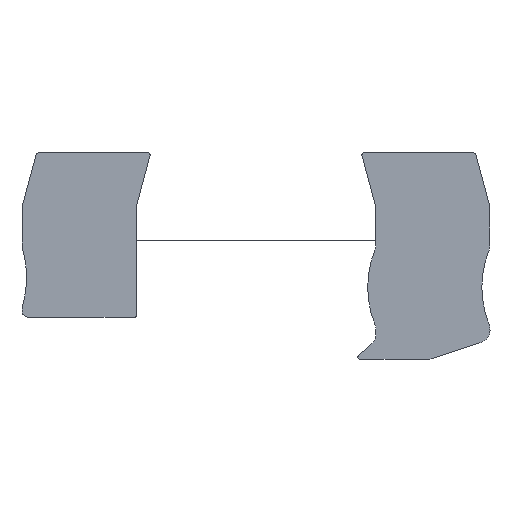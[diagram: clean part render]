
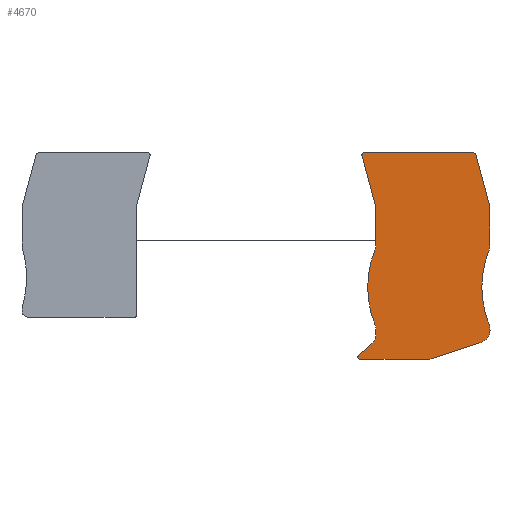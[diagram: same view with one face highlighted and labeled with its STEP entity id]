
A CAD part, top view. The second image highlights one B-rep face of the part: STEP entity #4670.
In plain terms, the highlighted planar face has unit normal (0, 0, 1).
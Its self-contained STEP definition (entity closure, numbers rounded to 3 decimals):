
#2380=CARTESIAN_POINT('',(21.105,12.451,
3.7));
#2390=DIRECTION('',(0.,0.,1.));
#2400=DIRECTION('',(1.,0.,0.));
#2410=AXIS2_PLACEMENT_3D('',#2380,#2390,#2400);
#2420=PLANE('',#2410);
#2430=CARTESIAN_POINT('',(27.45,13.169,
3.7));
#2440=DIRECTION('',(0.,0.,1.));
#2450=DIRECTION('',(1.,0.,0.));
#2460=AXIS2_PLACEMENT_3D('',#2430,#2440,#2450);
#2470=CIRCLE('',#2460,0.5);
#2480=CARTESIAN_POINT('',(27.95,13.169,
3.7));
#2490=VERTEX_POINT('',#2480);
#2500=CARTESIAN_POINT('',(27.933,13.298,
3.7));
#2510=VERTEX_POINT('',#2500);
#2520=EDGE_CURVE('',#2490,#2510,#2470,.T.);
#2530=ORIENTED_EDGE('',*,*,#2520,.T.);
#2540=CARTESIAN_POINT('',(27.95,6.334,3.7));
#2550=DIRECTION('',(0.,-1.,0.));
#2560=VECTOR('',#2550,1.);
#2570=LINE('',#2540,#2560);
#2580=CARTESIAN_POINT('',(27.95,7.404,
3.7));
#2590=VERTEX_POINT('',#2580);
#2600=EDGE_CURVE('',#2490,#2590,#2570,.T.);
#2610=ORIENTED_EDGE('',*,*,#2600,.F.);
#2620=CARTESIAN_POINT('',(25.95,7.404,
3.7));
#2630=DIRECTION('',(0.,0.,1.));
#2640=DIRECTION('',(1.,0.,0.));
#2650=AXIS2_PLACEMENT_3D('',#2620,#2630,#2640);
#2660=CIRCLE('',#2650,2.);
#2670=CARTESIAN_POINT('',(27.803,6.65,
3.7));
#2680=VERTEX_POINT('',#2670);
#2690=EDGE_CURVE('',#2680,#2590,#2660,.T.);
#2700=ORIENTED_EDGE('',*,*,#2690,.T.);
#2710=CARTESIAN_POINT('',(41.698,1.,
3.7));
#2720=DIRECTION('',(0.,0.,1.));
#2730=DIRECTION('',(1.,0.,0.));
#2740=AXIS2_PLACEMENT_3D('',#2710,#2720,#2730);
#2750=CIRCLE('',#2740,15.);
#2760=CARTESIAN_POINT('',(26.698,1.,
3.7));
#2770=VERTEX_POINT('',#2760);
#2780=EDGE_CURVE('',#2680,#2770,#2750,.T.);
#2790=ORIENTED_EDGE('',*,*,#2780,.F.);
#2800=CARTESIAN_POINT('',(27.803,-4.65,
3.7));
#2810=VERTEX_POINT('',#2800);
#2820=EDGE_CURVE('',#2770,#2810,#2750,.T.);
#2830=ORIENTED_EDGE('',*,*,#2820,.F.);
#2840=CARTESIAN_POINT('',(25.95,-5.404,
3.7));
#2850=DIRECTION('',(0.,0.,1.));
#2860=DIRECTION('',(1.,0.,0.));
#2870=AXIS2_PLACEMENT_3D('',#2840,#2850,#2860);
#2880=CIRCLE('',#2870,2.);
#2890=CARTESIAN_POINT('',(27.95,-5.404,
3.7));
#2900=VERTEX_POINT('',#2890);
#2910=EDGE_CURVE('',#2900,#2810,#2880,.T.);
#2920=ORIENTED_EDGE('',*,*,#2910,.T.);
#2930=CARTESIAN_POINT('',(27.95,6.334,3.7));
#2940=DIRECTION('',(0.,-1.,0.));
#2950=VECTOR('',#2940,1.);
#2960=LINE('',#2930,#2950);
#2970=CARTESIAN_POINT('',(27.95,-5.554,
3.7));
#2980=VERTEX_POINT('',#2970);
#2990=EDGE_CURVE('',#2900,#2980,#2960,.T.);
#3000=ORIENTED_EDGE('',*,*,#2990,.F.);
#3010=CARTESIAN_POINT('',(25.95,-5.554,
3.7));
#3020=DIRECTION('',(0.,0.,-1.));
#3030=DIRECTION('',(-1.,0.,0.));
#3040=AXIS2_PLACEMENT_3D('',#3010,#3020,#3030);
#3050=CIRCLE('',#3040,2.);
#3060=CARTESIAN_POINT('',(26.576,-7.454,
3.7));
#3070=VERTEX_POINT('',#3060);
#3080=EDGE_CURVE('',#2980,#3070,#3050,.T.);
#3090=ORIENTED_EDGE('',*,*,#3080,.F.);
#3100=CARTESIAN_POINT('',(10.837,-12.638,3.7))
;
#3110=DIRECTION('',(-0.95,-0.313,0.));
#3120=VECTOR('',#3110,1.);
#3130=LINE('',#3100,#3120);
#3140=CARTESIAN_POINT('',(19.15,-9.9,
3.7));
#3150=VERTEX_POINT('',#3140);
#3160=EDGE_CURVE('',#3070,#3150,#3130,.T.);
#3170=ORIENTED_EDGE('',*,*,#3160,.F.);
#3180=CARTESIAN_POINT('',(18.524,-8.,
3.7));
#3190=DIRECTION('',(0.,0.,1.));
#3200=DIRECTION('',(1.,0.,0.));
#3210=AXIS2_PLACEMENT_3D('',#3180,#3190,#3200);
#3220=CIRCLE('',#3210,2.);
#3230=CARTESIAN_POINT('',(18.524,-10.,
3.7));
#3240=VERTEX_POINT('',#3230);
#3250=EDGE_CURVE('',#3240,#3150,#3220,.T.);
#3260=ORIENTED_EDGE('',*,*,#3250,.T.);
#3270=CARTESIAN_POINT('',(10.837,-10.,3.7))
;
#3280=DIRECTION('',(-1.,0.,0.));
#3290=VECTOR('',#3280,1.);
#3300=LINE('',#3270,#3290);
#3310=CARTESIAN_POINT('',(8.046,-10.,
3.7));
#3320=VERTEX_POINT('',#3310);
#3330=EDGE_CURVE('',#3240,#3320,#3300,.T.);
#3340=ORIENTED_EDGE('',*,*,#3330,.F.);
#3350=CARTESIAN_POINT('',(8.046,-9.7,
3.7));
#3360=DIRECTION('',(0.,0.,1.));
#3370=DIRECTION('',(1.,0.,0.));
#3380=AXIS2_PLACEMENT_3D('',#3350,#3360,#3370);
#3390=CIRCLE('',#3380,0.3);
#3400=CARTESIAN_POINT('',(7.746,-9.7,
3.7));
#3410=VERTEX_POINT('',#3400);
#3420=EDGE_CURVE('',#3410,#3320,#3390,.T.);
#3430=ORIENTED_EDGE('',*,*,#3420,.T.);
#3440=CARTESIAN_POINT('',(7.841,-9.481,
3.7));
#3450=VERTEX_POINT('',#3440);
#3460=EDGE_CURVE('',#3450,#3410,#3390,.T.);
#3470=ORIENTED_EDGE('',*,*,#3460,.T.);
#3480=CARTESIAN_POINT('',(10.837,-6.686,3.7))
;
#3490=DIRECTION('',(0.731,0.682,0.));
#3500=VECTOR('',#3490,1.);
#3510=LINE('',#3480,#3500);
#3520=CARTESIAN_POINT('',(9.864,-7.593,
3.7));
#3530=VERTEX_POINT('',#3520);
#3540=EDGE_CURVE('',#3450,#3530,#3510,.T.);
#3550=ORIENTED_EDGE('',*,*,#3540,.F.);
#3560=CARTESIAN_POINT('',(8.5,-6.131,
3.7));
#3570=DIRECTION('',(0.,0.,1.));
#3580=DIRECTION('',(1.,0.,0.));
#3590=AXIS2_PLACEMENT_3D('',#3560,#3570,#3580);
#3600=CIRCLE('',#3590,2.);
#3610=CARTESIAN_POINT('',(10.5,-6.131,
3.7));
#3620=VERTEX_POINT('',#3610);
#3630=EDGE_CURVE('',#3530,#3620,#3600,.T.);
#3640=ORIENTED_EDGE('',*,*,#3630,.F.);
#3650=CARTESIAN_POINT('',(10.5,6.334,3.7));
#3660=DIRECTION('',(0.,1.,0.));
#3670=VECTOR('',#3660,1.);
#3680=LINE('',#3650,#3670);
#3690=CARTESIAN_POINT('',(10.5,-5.404,
3.7));
#3700=VERTEX_POINT('',#3690);
#3710=EDGE_CURVE('',#3620,#3700,#3680,.T.);
#3720=ORIENTED_EDGE('',*,*,#3710,.F.);
#3730=CARTESIAN_POINT('',(8.5,-5.404,
3.7));
#3740=DIRECTION('',(0.,0.,1.));
#3750=DIRECTION('',(1.,0.,0.));
#3760=AXIS2_PLACEMENT_3D('',#3730,#3740,#3750);
#3770=CIRCLE('',#3760,2.);
#3780=CARTESIAN_POINT('',(10.353,-4.65,
3.7));
#3790=VERTEX_POINT('',#3780);
#3800=EDGE_CURVE('',#3700,#3790,#3770,.T.);
#3810=ORIENTED_EDGE('',*,*,#3800,.F.);
#3820=CARTESIAN_POINT('',(24.248,1.,
3.7));
#3830=DIRECTION('',(0.,0.,1.));
#3840=DIRECTION('',(1.,0.,0.));
#3850=AXIS2_PLACEMENT_3D('',#3820,#3830,#3840);
#3860=CIRCLE('',#3850,15.);
#3870=CARTESIAN_POINT('',(9.248,1.,
3.7));
#3880=VERTEX_POINT('',#3870);
#3890=EDGE_CURVE('',#3880,#3790,#3860,.T.);
#3900=ORIENTED_EDGE('',*,*,#3890,.T.);
#3910=CARTESIAN_POINT('',(10.353,6.65,
3.7));
#3920=VERTEX_POINT('',#3910);
#3930=EDGE_CURVE('',#3920,#3880,#3860,.T.);
#3940=ORIENTED_EDGE('',*,*,#3930,.T.);
#3950=CARTESIAN_POINT('',(8.5,7.404,
3.7));
#3960=DIRECTION('',(0.,0.,1.));
#3970=DIRECTION('',(1.,0.,0.));
#3980=AXIS2_PLACEMENT_3D('',#3950,#3960,#3970);
#3990=CIRCLE('',#3980,2.);
#4000=CARTESIAN_POINT('',(10.5,7.404,
3.7));
#4010=VERTEX_POINT('',#4000);
#4020=EDGE_CURVE('',#3920,#4010,#3990,.T.);
#4030=ORIENTED_EDGE('',*,*,#4020,.F.);
#4040=CARTESIAN_POINT('',(10.5,6.334,3.7));
#4050=DIRECTION('',(0.,1.,0.));
#4060=VECTOR('',#4050,1.);
#4070=LINE('',#4040,#4060);
#4080=CARTESIAN_POINT('',(10.5,12.971,
3.7));
#4090=VERTEX_POINT('',#4080);
#4100=EDGE_CURVE('',#4010,#4090,#4070,.T.);
#4110=ORIENTED_EDGE('',*,*,#4100,.F.);
#4120=CARTESIAN_POINT('',(8.5,12.971,
3.7));
#4130=DIRECTION('',(0.,0.,1.));
#4140=DIRECTION('',(1.,0.,0.));
#4150=AXIS2_PLACEMENT_3D('',#4120,#4130,#4140);
#4160=CIRCLE('',#4150,2.);
#4170=CARTESIAN_POINT('',(10.432,13.489,
3.7));
#4180=VERTEX_POINT('',#4170);
#4190=EDGE_CURVE('',#4090,#4180,#4160,.T.);
#4200=ORIENTED_EDGE('',*,*,#4190,.F.);
#4210=CARTESIAN_POINT('',(12.349,6.334,3.7));
#4220=DIRECTION('',(-0.259,0.966,0.));
#4230=VECTOR('',#4220,1.);
#4240=LINE('',#4210,#4230);
#4250=CARTESIAN_POINT('',(8.373,21.172,
3.7));
#4260=VERTEX_POINT('',#4250);
#4270=EDGE_CURVE('',#4180,#4260,#4240,.T.);
#4280=ORIENTED_EDGE('',*,*,#4270,.F.);
#4290=CARTESIAN_POINT('',(8.663,21.25,
3.7));
#4300=DIRECTION('',(0.,0.,1.));
#4310=DIRECTION('',(1.,0.,0.));
#4320=AXIS2_PLACEMENT_3D('',#4290,#4300,#4310);
#4330=CIRCLE('',#4320,0.3);
#4340=CARTESIAN_POINT('',(8.363,21.25,
3.7));
#4350=VERTEX_POINT('',#4340);
#4360=EDGE_CURVE('',#4350,#4260,#4330,.T.);
#4370=ORIENTED_EDGE('',*,*,#4360,.T.);
#4380=CARTESIAN_POINT('',(8.663,21.55,
3.7));
#4390=VERTEX_POINT('',#4380);
#4400=EDGE_CURVE('',#4390,#4350,#4330,.T.);
#4410=ORIENTED_EDGE('',*,*,#4400,.T.);
#4420=CARTESIAN_POINT('',(10.837,21.55,3.7));
#4430=DIRECTION('',(1.,0.,0.));
#4440=VECTOR('',#4430,1.);
#4450=LINE('',#4420,#4440);
#4460=CARTESIAN_POINT('',(25.338,21.55,
3.7));
#4470=VERTEX_POINT('',#4460);
#4480=EDGE_CURVE('',#4390,#4470,#4450,.T.);
#4490=ORIENTED_EDGE('',*,*,#4480,.F.);
#4500=CARTESIAN_POINT('',(25.338,21.05,
3.7));
#4510=DIRECTION('',(0.,0.,1.));
#4520=DIRECTION('',(1.,0.,0.));
#4530=AXIS2_PLACEMENT_3D('',#4500,#4510,#4520);
#4540=CIRCLE('',#4530,0.5);
#4550=CARTESIAN_POINT('',(25.821,21.179,
3.7));
#4560=VERTEX_POINT('',#4550);
#4570=EDGE_CURVE('',#4560,#4470,#4540,.T.);
#4580=ORIENTED_EDGE('',*,*,#4570,.T.);
#4590=CARTESIAN_POINT('',(29.799,6.334,3.7));
#4600=DIRECTION('',(0.259,-0.966,0.));
#4610=VECTOR('',#4600,1.);
#4620=LINE('',#4590,#4610);
#4630=EDGE_CURVE('',#4560,#2510,#4620,.T.);
#4640=ORIENTED_EDGE('',*,*,#4630,.F.);
#4650=EDGE_LOOP('',(#4640,#4580,#4490,#4410,#4370,#4280,#4200,#4110,
#4030,#3940,#3900,#3810,#3720,#3640,#3550,#3470,#3430,#3340,#3260,#3170,
#3090,#3000,#2920,#2830,#2790,#2700,#2610,#2530));
#4660=FACE_OUTER_BOUND('',#4650,.T.);
#4670=ADVANCED_FACE('',(#4660),#2420,.T.);
